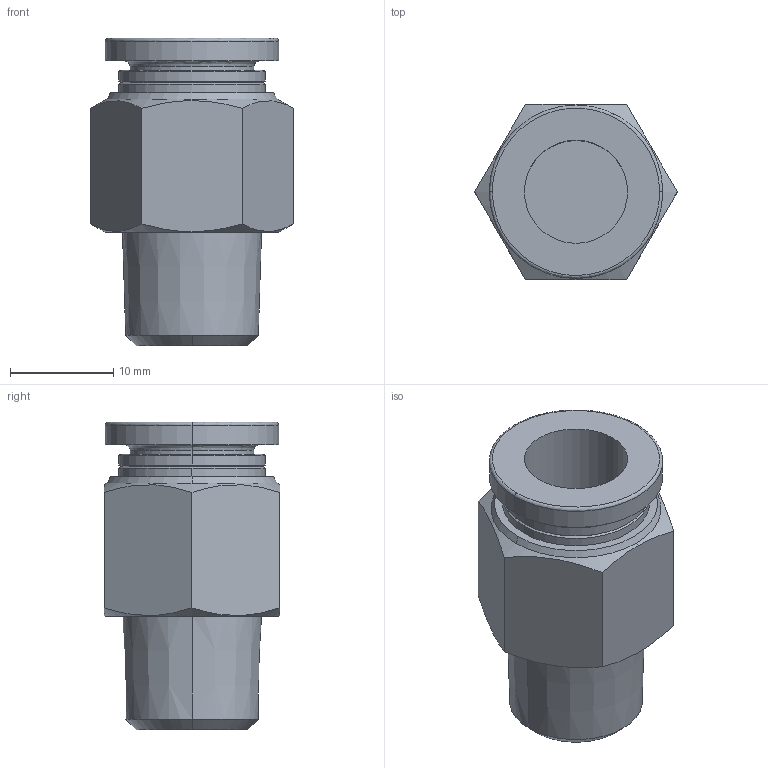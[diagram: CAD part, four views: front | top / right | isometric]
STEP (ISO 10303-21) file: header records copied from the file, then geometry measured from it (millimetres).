
FILE_DESCRIPTION (( 'STEP AP214' ), '1' );
FILE_NAME ('KQ2H10-02AS.STEP', '2023-03-06T10:14:03', ( 'Windows User' ), ( 'P R C' ), 'SwSTEP 2.0', 'SolidWorks 2019', '' );
FILE_SCHEMA (( 'AUTOMOTIVE_DESIGN' ));
Length unit declared in the file: millimetre
Products named in the file (1): KQ2H10-02AS
Bounding box: 19.63 x 17 x 29.8 mm (x, y, z)
Volume: 4115.9 mm3; surface area: 2767.2 mm2
Topology: 1 solids, 1 shells, 46 faces, 105 edges, 66 vertices
Faces by surface type: cone 19, plane 13, cylinder 10, bspline 4
Entity records: 1825 total; most frequent: CARTESIAN_POINT 762, DIRECTION 221, ORIENTED_EDGE 210, EDGE_CURVE 105, AXIS2_PLACEMENT_3D 93, VERTEX_POINT 66, EDGE_LOOP 51, CIRCLE 50
